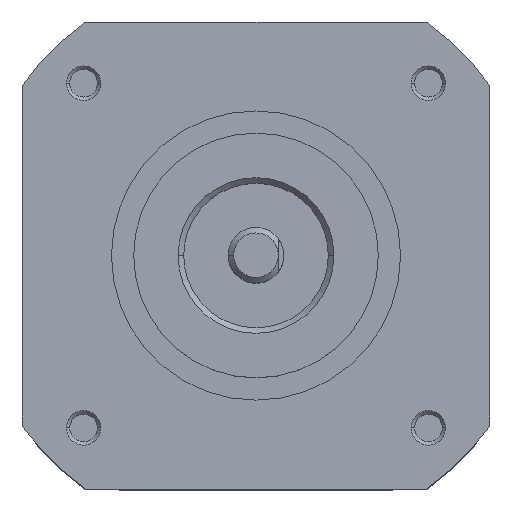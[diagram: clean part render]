
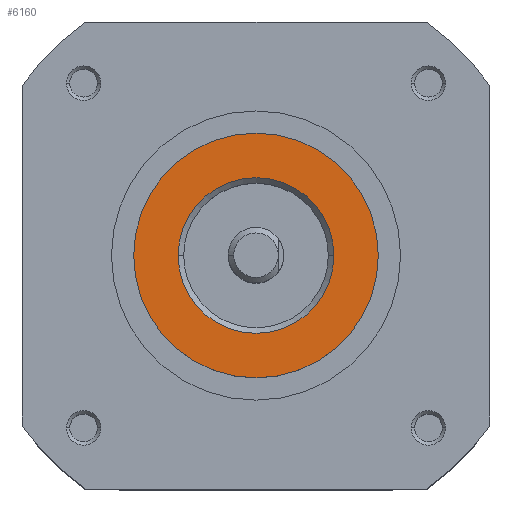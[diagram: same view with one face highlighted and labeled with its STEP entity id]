
A CAD part, top view. The second image highlights one B-rep face of the part: STEP entity #6160.
In plain terms, the highlighted planar face has unit normal (0, 0, 1).
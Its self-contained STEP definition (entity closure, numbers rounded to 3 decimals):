
#15 = EDGE_CURVE ( 'NONE', #5011, #5045, #3968, .T. ) ;
#17 = EDGE_CURVE ( 'NONE', #5096, #4967, #3970, .T. ) ;
#959 = AXIS2_PLACEMENT_3D ( 'NONE', #2930, #2937, #2938 ) ;
#1347 = EDGE_LOOP ( 'NONE', ( #3879, #3880 ) ) ;
#1364 = EDGE_LOOP ( 'NONE', ( #3881, #3882 ) ) ;
#1551 = EDGE_CURVE ( 'NONE', #4967, #5096, #3689, .T. ) ;
#1562 = EDGE_CURVE ( 'NONE', #5045, #5011, #3706, .T. ) ;
#2303 = CARTESIAN_POINT ( 'NONE',  ( 7., 0., 8. ) ) ;
#2347 = CARTESIAN_POINT ( 'NONE',  ( -11., 0., 8. ) ) ;
#2381 = CARTESIAN_POINT ( 'NONE',  ( 11., 0., 8. ) ) ;
#2432 = CARTESIAN_POINT ( 'NONE',  ( -7., 0., 8. ) ) ;
#2930 = CARTESIAN_POINT ( 'NONE',  ( 0., 0., 8. ) ) ;
#2936 = PLANE ( 'NONE',  #959 ) ;
#2937 = DIRECTION ( 'NONE',  ( 0., 0., 1. ) ) ;
#2938 = DIRECTION ( 'NONE',  ( 1., 0., 0. ) ) ;
#3689 = CIRCLE ( 'NONE', #4167, 7. ) ;
#3706 = CIRCLE ( 'NONE', #4171, 11. ) ;
#3879 = ORIENTED_EDGE ( 'NONE', *, *, #1551, .T. ) ;
#3880 = ORIENTED_EDGE ( 'NONE', *, *, #17, .T. ) ;
#3881 = ORIENTED_EDGE ( 'NONE', *, *, #15, .T. ) ;
#3882 = ORIENTED_EDGE ( 'NONE', *, *, #1562, .T. ) ;
#3968 = CIRCLE ( 'NONE', #4833, 11. ) ;
#3970 = CIRCLE ( 'NONE', #4837, 7. ) ;
#4167 = AXIS2_PLACEMENT_3D ( 'NONE', #5883, #5936, #5935 ) ;
#4171 = AXIS2_PLACEMENT_3D ( 'NONE', #5953, #5965, #5963 ) ;
#4613 = FACE_OUTER_BOUND ( 'NONE', #1364, .T. ) ;
#4620 = FACE_BOUND ( 'NONE', #1347, .T. ) ;
#4833 = AXIS2_PLACEMENT_3D ( 'NONE', #4894, #4879, #4900 ) ;
#4837 = AXIS2_PLACEMENT_3D ( 'NONE', #4904, #4903, #4902 ) ;
#4879 = DIRECTION ( 'NONE',  ( 0., 0., 1. ) ) ;
#4894 = CARTESIAN_POINT ( 'NONE',  ( 0., 0., 8. ) ) ;
#4900 = DIRECTION ( 'NONE',  ( 1., 0., 0. ) ) ;
#4902 = DIRECTION ( 'NONE',  ( 1., 0., 0. ) ) ;
#4903 = DIRECTION ( 'NONE',  ( 0., 0., -1. ) ) ;
#4904 = CARTESIAN_POINT ( 'NONE',  ( 0., 0., 8. ) ) ;
#4967 = VERTEX_POINT ( 'NONE', #2303 ) ;
#5011 = VERTEX_POINT ( 'NONE', #2347 ) ;
#5045 = VERTEX_POINT ( 'NONE', #2381 ) ;
#5096 = VERTEX_POINT ( 'NONE', #2432 ) ;
#5883 = CARTESIAN_POINT ( 'NONE',  ( 0., 0., 8. ) ) ;
#5935 = DIRECTION ( 'NONE',  ( 1., 0., 0. ) ) ;
#5936 = DIRECTION ( 'NONE',  ( 0., 0., -1. ) ) ;
#5953 = CARTESIAN_POINT ( 'NONE',  ( 0., 0., 8. ) ) ;
#5963 = DIRECTION ( 'NONE',  ( 1., 0., 0. ) ) ;
#5965 = DIRECTION ( 'NONE',  ( 0., 0., 1. ) ) ;
#6160 = ADVANCED_FACE ( 'NONE', ( #4620, #4613 ), #2936, .T. ) ;
